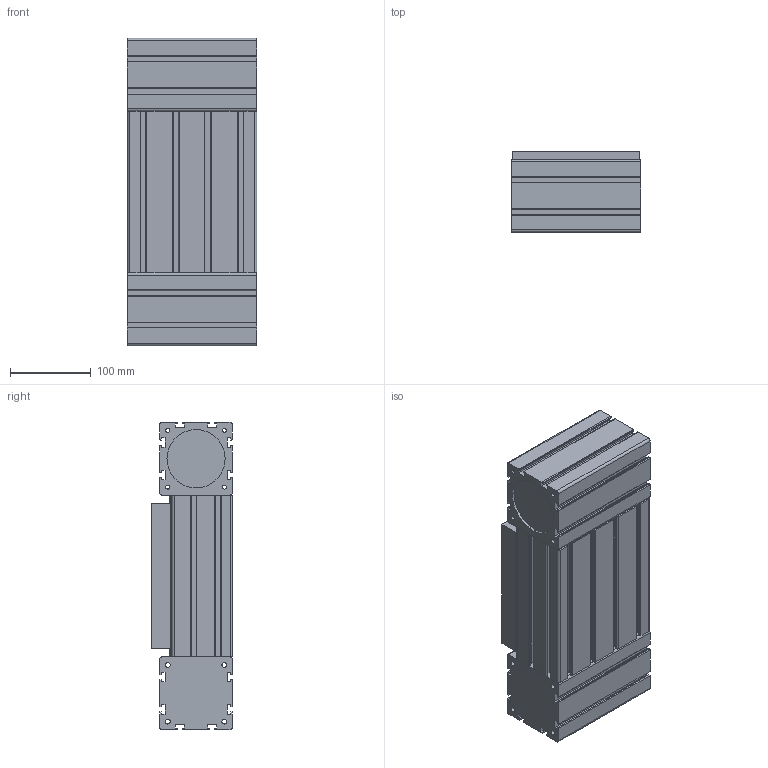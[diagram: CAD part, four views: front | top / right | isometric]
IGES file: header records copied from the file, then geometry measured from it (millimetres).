
Global section: file name: No Iges File Name specified; native system: Autodesk Inventor 2012; preprocessor: AutoDesk Inventor Iges Exporter R2012; author: disegnatore3; date: 20160912.145658; units: millimetre
Bounding box: 160 x 100 x 380 mm (x, y, z)
Volume: 4928486.3 mm3; surface area: 515486.8 mm2
Topology: 4 solids, 24 shells, 1218 faces, 3437 edges, 2290 vertices
Faces by surface type: plane 840, revolution 181, cylinder 123, cone 52, torus 14, bspline 4, sphere 4
Full cylindrical faces by diameter (mm): 2.5 x8, 6 x4, 7.847 x2, 9.8 x2
